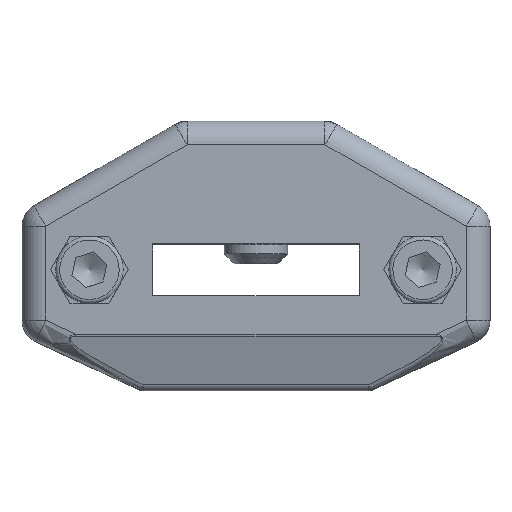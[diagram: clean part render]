
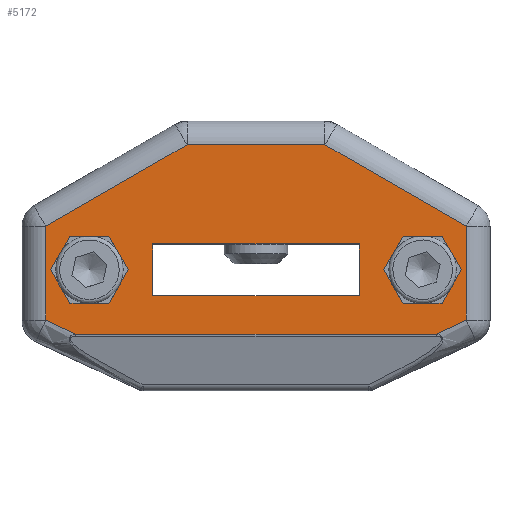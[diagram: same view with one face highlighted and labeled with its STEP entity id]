
A CAD part, top view. The second image highlights one B-rep face of the part: STEP entity #5172.
In plain terms, the highlighted planar face has unit normal (0, 0, 1).
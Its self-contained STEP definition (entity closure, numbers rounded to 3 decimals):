
#1227=CARTESIAN_POINT('',(1058.508,755.986,11.0));
#1228=VERTEX_POINT('',#1227);
#1235=CARTESIAN_POINT('',(1060.962,760.236,11.0));
#1236=VERTEX_POINT('',#1235);
#1237=CARTESIAN_POINT('',(1060.962,760.236,11.0));
#1238=DIRECTION('',(-0.5,-0.866,0.0));
#1239=VECTOR('',#1238,4.907);
#1240=LINE('',#1237,#1239);
#1241=EDGE_CURVE('',#1236,#1228,#1240,.T.);
#2044=CARTESIAN_POINT('',(1093.149,760.236,11.0));
#2045=VERTEX_POINT('',#2044);
#2052=CARTESIAN_POINT('',(1095.603,755.986,11.0));
#2053=VERTEX_POINT('',#2052);
#2054=CARTESIAN_POINT('',(1095.603,755.986,11.0));
#2055=DIRECTION('',(-0.5,0.866,0.0));
#2056=VECTOR('',#2055,4.907);
#2057=LINE('',#2054,#2056);
#2058=EDGE_CURVE('',#2053,#2045,#2057,.T.);
#2093=CARTESIAN_POINT('',(1095.603,764.486,11.0));
#2094=VERTEX_POINT('',#2093);
#2101=CARTESIAN_POINT('',(1093.149,760.236,11.0));
#2102=DIRECTION('',(0.5,0.866,0.0));
#2103=VECTOR('',#2102,4.907);
#2104=LINE('',#2101,#2103);
#2105=EDGE_CURVE('',#2045,#2094,#2104,.T.);
#4696=CARTESIAN_POINT('',(1054.353,752.121,11.0));
#4697=VERTEX_POINT('',#4696);
#4715=CARTESIAN_POINT('',(1099.757,752.121,11.0));
#4716=VERTEX_POINT('',#4715);
#4724=CARTESIAN_POINT('',(1099.757,752.121,11.0));
#4725=DIRECTION('',(-1.0,0.0,0.0));
#4726=VECTOR('',#4725,45.404);
#4727=LINE('',#4724,#4726);
#4728=EDGE_CURVE('',#4716,#4697,#4727,.T.);
#4982=CARTESIAN_POINT('',(1050.555,753.892,11.0));
#4983=VERTEX_POINT('',#4982);
#4984=CARTESIAN_POINT('',(1054.353,752.121,11.0));
#4985=DIRECTION('',(-0.906,0.423,0.0));
#4986=VECTOR('',#4985,4.191);
#4987=LINE('',#4984,#4986);
#4988=EDGE_CURVE('',#4697,#4983,#4987,.T.);
#5008=CARTESIAN_POINT('',(1077.055,761.986,11.0));
#5009=DIRECTION('',(0.0,0.0,1.0));
#5010=DIRECTION('',(1.0,0.0,0.0));
#5011=AXIS2_PLACEMENT_3D('',#5008,#5009,#5010);
#5012=PLANE('',#5011);
#5013=ORIENTED_EDGE('',*,*,#4728,.F.);
#5014=CARTESIAN_POINT('',(1103.555,753.892,11.0));
#5015=VERTEX_POINT('',#5014);
#5016=CARTESIAN_POINT('',(1103.555,753.892,11.0));
#5017=DIRECTION('',(-0.906,-0.423,0.0));
#5018=VECTOR('',#5017,4.191);
#5019=LINE('',#5016,#5018);
#5020=EDGE_CURVE('',#5015,#4716,#5019,.T.);
#5021=ORIENTED_EDGE('',*,*,#5020,.F.);
#5022=CARTESIAN_POINT('',(1103.555,765.707,11.0));
#5023=VERTEX_POINT('',#5022);
#5024=CARTESIAN_POINT('',(1103.555,765.707,11.0));
#5025=DIRECTION('',(0.0,-1.0,0.0));
#5026=VECTOR('',#5025,11.815);
#5027=LINE('',#5024,#5026);
#5028=EDGE_CURVE('',#5023,#5015,#5027,.T.);
#5029=ORIENTED_EDGE('',*,*,#5028,.F.);
#5030=CARTESIAN_POINT('',(1085.752,775.986,11.0));
#5031=VERTEX_POINT('',#5030);
#5032=CARTESIAN_POINT('',(1085.752,775.986,11.0));
#5033=DIRECTION('',(0.866,-0.5,0.0));
#5034=VECTOR('',#5033,20.558);
#5035=LINE('',#5032,#5034);
#5036=EDGE_CURVE('',#5031,#5023,#5035,.T.);
#5037=ORIENTED_EDGE('',*,*,#5036,.F.);
#5038=CARTESIAN_POINT('',(1068.359,775.986,11.0));
#5039=VERTEX_POINT('',#5038);
#5040=CARTESIAN_POINT('',(1068.359,775.986,11.0));
#5041=DIRECTION('',(1.0,0.0,0.0));
#5042=VECTOR('',#5041,17.392);
#5043=LINE('',#5040,#5042);
#5044=EDGE_CURVE('',#5039,#5031,#5043,.T.);
#5045=ORIENTED_EDGE('',*,*,#5044,.F.);
#5046=CARTESIAN_POINT('',(1050.555,765.707,11.0));
#5047=VERTEX_POINT('',#5046);
#5048=CARTESIAN_POINT('',(1050.555,765.707,11.0));
#5049=DIRECTION('',(0.866,0.5,0.0));
#5050=VECTOR('',#5049,20.558);
#5051=LINE('',#5048,#5050);
#5052=EDGE_CURVE('',#5047,#5039,#5051,.T.);
#5053=ORIENTED_EDGE('',*,*,#5052,.F.);
#5054=CARTESIAN_POINT('',(1050.555,753.892,11.0));
#5055=DIRECTION('',(0.0,1.0,0.0));
#5056=VECTOR('',#5055,11.815);
#5057=LINE('',#5054,#5056);
#5058=EDGE_CURVE('',#4983,#5047,#5057,.T.);
#5059=ORIENTED_EDGE('',*,*,#5058,.F.);
#5060=ORIENTED_EDGE('',*,*,#4988,.F.);
#5061=EDGE_LOOP('',(#5013,#5021,#5029,#5037,#5045,#5053,#5059,#5060));
#5062=FACE_OUTER_BOUND('',#5061,.T.);
#5063=CARTESIAN_POINT('',(1090.055,756.986,11.0));
#5064=VERTEX_POINT('',#5063);
#5065=CARTESIAN_POINT('',(1064.055,756.986,11.0));
#5066=VERTEX_POINT('',#5065);
#5067=CARTESIAN_POINT('',(1090.055,756.986,11.0));
#5068=DIRECTION('',(-1.0,0.0,0.0));
#5069=VECTOR('',#5068,26.0);
#5070=LINE('',#5067,#5069);
#5071=EDGE_CURVE('',#5064,#5066,#5070,.T.);
#5072=ORIENTED_EDGE('',*,*,#5071,.T.);
#5073=CARTESIAN_POINT('',(1064.055,763.486,11.0));
#5074=VERTEX_POINT('',#5073);
#5075=CARTESIAN_POINT('',(1064.055,756.986,11.0));
#5076=DIRECTION('',(0.0,1.0,0.0));
#5077=VECTOR('',#5076,6.5);
#5078=LINE('',#5075,#5077);
#5079=EDGE_CURVE('',#5066,#5074,#5078,.T.);
#5080=ORIENTED_EDGE('',*,*,#5079,.T.);
#5081=CARTESIAN_POINT('',(1090.055,763.486,11.0));
#5082=VERTEX_POINT('',#5081);
#5083=CARTESIAN_POINT('',(1064.055,763.486,11.0));
#5084=DIRECTION('',(1.0,0.0,0.0));
#5085=VECTOR('',#5084,26.0);
#5086=LINE('',#5083,#5085);
#5087=EDGE_CURVE('',#5074,#5082,#5086,.T.);
#5088=ORIENTED_EDGE('',*,*,#5087,.T.);
#5089=CARTESIAN_POINT('',(1090.055,763.486,11.0));
#5090=DIRECTION('',(0.0,-1.0,0.0));
#5091=VECTOR('',#5090,6.5);
#5092=LINE('',#5089,#5091);
#5093=EDGE_CURVE('',#5082,#5064,#5092,.T.);
#5094=ORIENTED_EDGE('',*,*,#5093,.T.);
#5095=EDGE_LOOP('',(#5072,#5080,#5088,#5094));
#5096=FACE_BOUND('',#5095,.T.);
#5097=CARTESIAN_POINT('',(1053.6,755.986,11.0));
#5098=VERTEX_POINT('',#5097);
#5099=CARTESIAN_POINT('',(1058.508,755.986,11.0));
#5100=DIRECTION('',(-1.0,0.0,0.0));
#5101=VECTOR('',#5100,4.907);
#5102=LINE('',#5099,#5101);
#5103=EDGE_CURVE('',#1228,#5098,#5102,.T.);
#5104=ORIENTED_EDGE('',*,*,#5103,.T.);
#5105=CARTESIAN_POINT('',(1051.147,760.236,11.0));
#5106=VERTEX_POINT('',#5105);
#5107=CARTESIAN_POINT('',(1053.6,755.986,11.0));
#5108=DIRECTION('',(-0.5,0.866,0.0));
#5109=VECTOR('',#5108,4.907);
#5110=LINE('',#5107,#5109);
#5111=EDGE_CURVE('',#5098,#5106,#5110,.T.);
#5112=ORIENTED_EDGE('',*,*,#5111,.T.);
#5113=CARTESIAN_POINT('',(1053.6,764.486,11.0));
#5114=VERTEX_POINT('',#5113);
#5115=CARTESIAN_POINT('',(1051.147,760.236,11.0));
#5116=DIRECTION('',(0.5,0.866,0.0));
#5117=VECTOR('',#5116,4.907);
#5118=LINE('',#5115,#5117);
#5119=EDGE_CURVE('',#5106,#5114,#5118,.T.);
#5120=ORIENTED_EDGE('',*,*,#5119,.T.);
#5121=CARTESIAN_POINT('',(1058.508,764.486,11.0));
#5122=VERTEX_POINT('',#5121);
#5123=CARTESIAN_POINT('',(1053.6,764.486,11.0));
#5124=DIRECTION('',(1.0,0.0,0.0));
#5125=VECTOR('',#5124,4.907);
#5126=LINE('',#5123,#5125);
#5127=EDGE_CURVE('',#5114,#5122,#5126,.T.);
#5128=ORIENTED_EDGE('',*,*,#5127,.T.);
#5129=CARTESIAN_POINT('',(1058.508,764.486,11.0));
#5130=DIRECTION('',(0.5,-0.866,0.0));
#5131=VECTOR('',#5130,4.907);
#5132=LINE('',#5129,#5131);
#5133=EDGE_CURVE('',#5122,#1236,#5132,.T.);
#5134=ORIENTED_EDGE('',*,*,#5133,.T.);
#5135=ORIENTED_EDGE('',*,*,#1241,.T.);
#5136=EDGE_LOOP('',(#5104,#5112,#5120,#5128,#5134,#5135));
#5137=FACE_BOUND('',#5136,.T.);
#5138=CARTESIAN_POINT('',(1100.51,755.986,11.0));
#5139=VERTEX_POINT('',#5138);
#5140=CARTESIAN_POINT('',(1100.51,755.986,11.0));
#5141=DIRECTION('',(-1.0,0.0,0.0));
#5142=VECTOR('',#5141,4.907);
#5143=LINE('',#5140,#5142);
#5144=EDGE_CURVE('',#5139,#2053,#5143,.T.);
#5145=ORIENTED_EDGE('',*,*,#5144,.T.);
#5146=ORIENTED_EDGE('',*,*,#2058,.T.);
#5147=ORIENTED_EDGE('',*,*,#2105,.T.);
#5148=CARTESIAN_POINT('',(1100.51,764.486,11.0));
#5149=VERTEX_POINT('',#5148);
#5150=CARTESIAN_POINT('',(1095.603,764.486,11.0));
#5151=DIRECTION('',(1.0,0.0,0.0));
#5152=VECTOR('',#5151,4.907);
#5153=LINE('',#5150,#5152);
#5154=EDGE_CURVE('',#2094,#5149,#5153,.T.);
#5155=ORIENTED_EDGE('',*,*,#5154,.T.);
#5156=CARTESIAN_POINT('',(1102.964,760.236,11.0));
#5157=VERTEX_POINT('',#5156);
#5158=CARTESIAN_POINT('',(1100.51,764.486,11.0));
#5159=DIRECTION('',(0.5,-0.866,0.0));
#5160=VECTOR('',#5159,4.907);
#5161=LINE('',#5158,#5160);
#5162=EDGE_CURVE('',#5149,#5157,#5161,.T.);
#5163=ORIENTED_EDGE('',*,*,#5162,.T.);
#5164=CARTESIAN_POINT('',(1102.964,760.236,11.0));
#5165=DIRECTION('',(-0.5,-0.866,0.0));
#5166=VECTOR('',#5165,4.907);
#5167=LINE('',#5164,#5166);
#5168=EDGE_CURVE('',#5157,#5139,#5167,.T.);
#5169=ORIENTED_EDGE('',*,*,#5168,.T.);
#5170=EDGE_LOOP('',(#5145,#5146,#5147,#5155,#5163,#5169));
#5171=FACE_BOUND('',#5170,.T.);
#5172=ADVANCED_FACE('',(#5062,#5096,#5137,#5171),#5012,.T.);
